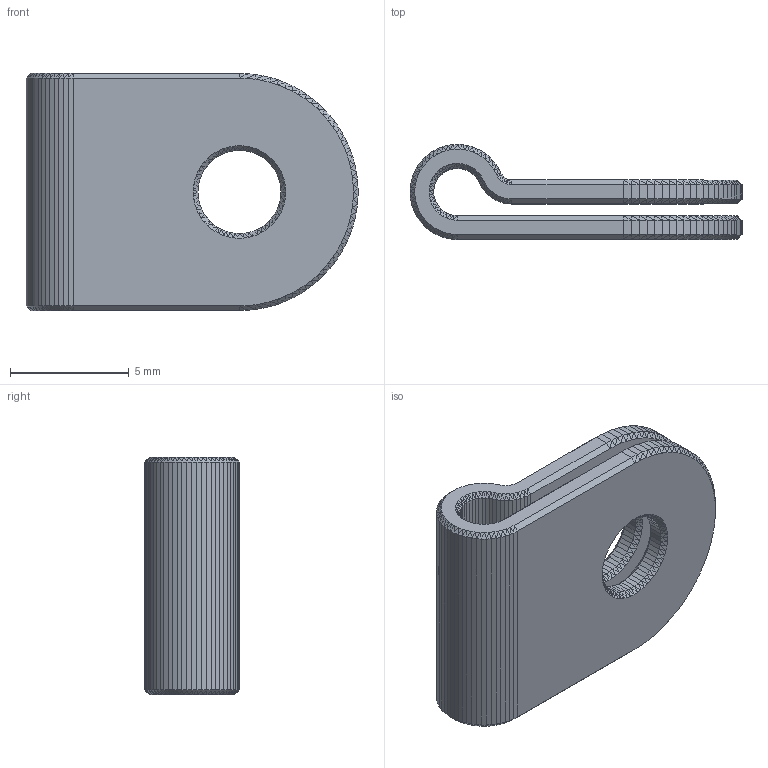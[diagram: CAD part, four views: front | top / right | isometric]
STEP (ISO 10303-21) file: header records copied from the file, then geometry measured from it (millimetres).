
FILE_DESCRIPTION(('Open CASCADE Model'),'2;1');
FILE_NAME('Open CASCADE Shape Model','2026-10-27T16:36:23',('Author'),( 'Open CASCADE'),'Open CASCADE STEP processor 7.9','Open CASCADE 7.9' ,'Unknown');
FILE_SCHEMA(('AUTOMOTIVE_DESIGN { 1 0 10303 214 1 1 1 1 }'));
Products named in the file (1): Open CASCADE STEP translator 7.9 1
Bounding box: 14 x 4 x 10 mm (x, y, z)
Volume: 248.7 mm3; surface area: 575.4 mm2
Topology: 1 solids, 1 shells, 1484 faces, 2676 edges, 1194 vertices
Faces by surface type: plane 1484
Entity records: 67806 total; most frequent: DIRECTION 10998, CARTESIAN_POINT 10707, LINE 8028, VECTOR 8028, ORIENTED_EDGE 5352, PCURVE 5352, DEFINITIONAL_REPRESENTATION 5352, EDGE_CURVE 2676
